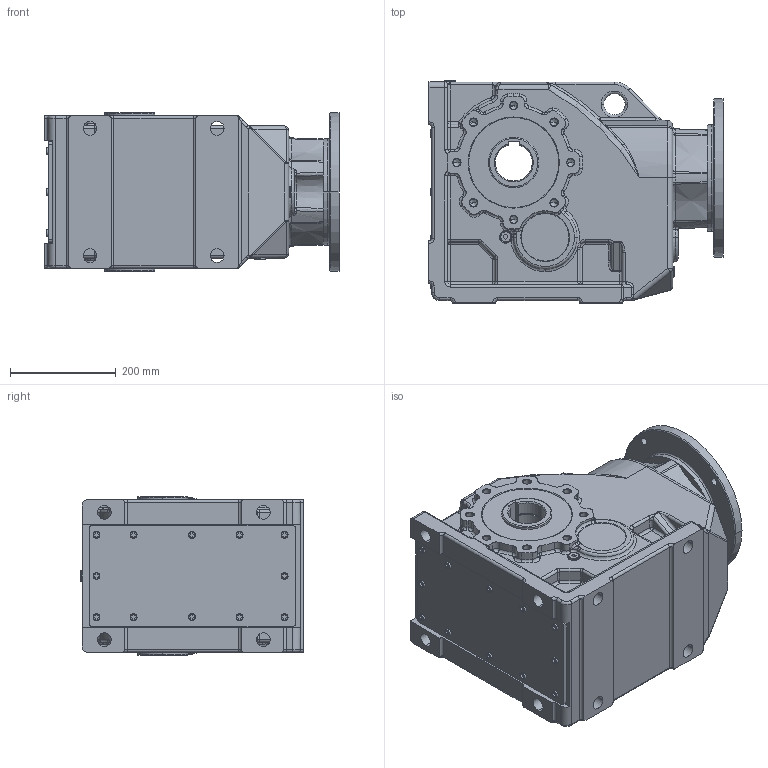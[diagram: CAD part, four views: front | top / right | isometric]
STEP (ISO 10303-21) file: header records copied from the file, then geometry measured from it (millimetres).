
FILE_DESCRIPTION (( 'STEP AP214' ), '1' );
FILE_NAME ('ktm73153-hohlwelle-f265-ap132.step', '2011-10-05T06:47:03', ( '' ), ( '' ), 'SwSTEP 2.0', 'SolidWorks 2010', '' );
FILE_SCHEMA (( 'AUTOMOTIVE_DESIGN' ));
Length unit declared in the file: millimetre
Products named in the file (4): Šroub DIN 6912_Šroub DIN 6912 - M14x35; KTM73_KTM73-AP132-Hohlwelle; ktm73153-hohlwelle-f265-ap132; Pøíruba MTC72A kulatá _230-265-300
Assembly tree (8 placements, depth 2):
  ktm73153-hohlwelle-f265-ap132
    Pøíruba MTC72A kulatá _230-265-300
    Šroub DIN 6912_Šroub DIN 6912 - M14x35  x6
    KTM73_KTM73-AP132-Hohlwelle
Bounding box: 555 x 419.5 x 300 mm (x, y, z)
Volume: 46321572.7 mm3; surface area: 1277186.5 mm2
Topology: 8 solids, 8 shells, 1502 faces, 3505 edges, 2004 vertices
Faces by surface type: cylinder 501, plane 371, torus 281, cone 201, bspline 107, sphere 41
Entity records: 65088 total; most frequent: CARTESIAN_POINT 29902, DIRECTION 6834, ORIENTED_EDGE 6166, EDGE_CURVE 3083, AXIS2_PLACEMENT_3D 2814, VERTEX_POINT 1849, CIRCLE 1593, EDGE_LOOP 1436
